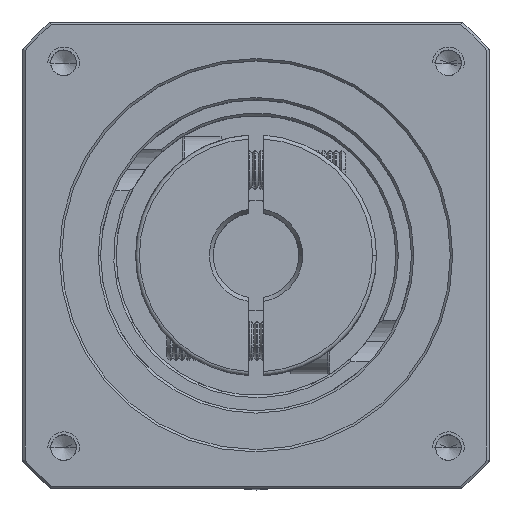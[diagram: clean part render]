
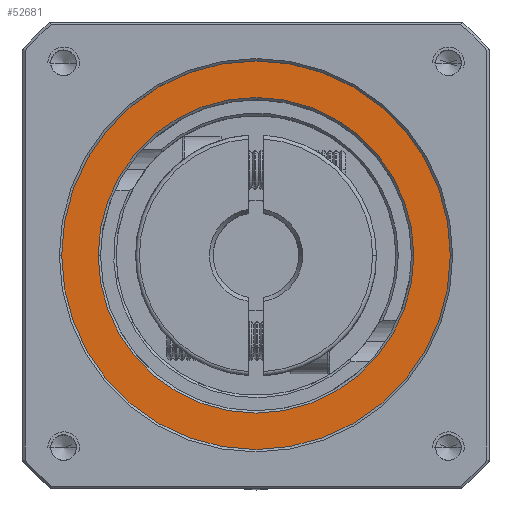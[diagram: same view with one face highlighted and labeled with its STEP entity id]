
A CAD part, top view. The second image highlights one B-rep face of the part: STEP entity #52681.
In plain terms, the highlighted planar face has unit normal (0, 0, 1).
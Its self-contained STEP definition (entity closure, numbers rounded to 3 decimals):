
#4067 = PLANE ( 'NONE',  #11713 ) ;
#6203 = DIRECTION ( 'NONE',  ( 1., 0., 0. ) ) ;
#6592 = CARTESIAN_POINT ( 'NONE',  ( -74.716, 10.431, 30.713 ) ) ;
#8507 = ORIENTED_EDGE ( 'NONE', *, *, #59440, .T. ) ;
#10522 = EDGE_CURVE ( 'NONE', #37752, #32580, #70852, .T. ) ;
#11713 = AXIS2_PLACEMENT_3D ( 'NONE', #12733, #70752, #21096 ) ;
#12733 = CARTESIAN_POINT ( 'NONE',  ( -74.716, 10.431, 30.713 ) ) ;
#14901 = DIRECTION ( 'NONE',  ( 1., 0., 0. ) ) ;
#16177 = DIRECTION ( 'NONE',  ( 0., 0., 1. ) ) ;
#18598 = CARTESIAN_POINT ( 'NONE',  ( -99.716, 10.431, 30.713 ) ) ;
#20814 = CARTESIAN_POINT ( 'NONE',  ( -49.716, 10.431, 30.713 ) ) ;
#21096 = DIRECTION ( 'NONE',  ( 1., 0., 0. ) ) ;
#22282 = ORIENTED_EDGE ( 'NONE', *, *, #41358, .T. ) ;
#24663 = ORIENTED_EDGE ( 'NONE', *, *, #10522, .T. ) ;
#26319 = VERTEX_POINT ( 'NONE', #18598 ) ;
#27782 = CARTESIAN_POINT ( 'NONE',  ( -54.416, 10.431, 30.713 ) ) ;
#30393 = DIRECTION ( 'NONE',  ( 0., 0., -1. ) ) ;
#31655 = CIRCLE ( 'NONE', #57802, 20.3 ) ;
#32580 = VERTEX_POINT ( 'NONE', #27782 ) ;
#35223 = CIRCLE ( 'NONE', #104980, 25. ) ;
#37752 = VERTEX_POINT ( 'NONE', #88644 ) ;
#41358 = EDGE_CURVE ( 'NONE', #57723, #26319, #35223, .T. ) ;
#42845 = FACE_BOUND ( 'NONE', #52471, .T. ) ;
#49598 = EDGE_LOOP ( 'NONE', ( #22282, #77660 ) ) ;
#50252 = EDGE_CURVE ( 'NONE', #26319, #57723, #101629, .T. ) ;
#52471 = EDGE_LOOP ( 'NONE', ( #8507, #24663 ) ) ;
#52681 = ADVANCED_FACE ( 'NONE', ( #42845, #86924 ), #4067, .T. ) ;
#55912 = DIRECTION ( 'NONE',  ( 0., 0., -1. ) ) ;
#57723 = VERTEX_POINT ( 'NONE', #20814 ) ;
#57802 = AXIS2_PLACEMENT_3D ( 'NONE', #80000, #30393, #88405 ) ;
#59287 = AXIS2_PLACEMENT_3D ( 'NONE', #6592, #64569, #14901 ) ;
#59440 = EDGE_CURVE ( 'NONE', #32580, #37752, #31655, .T. ) ;
#64013 = AXIS2_PLACEMENT_3D ( 'NONE', #105616, #55912, #6203 ) ;
#64569 = DIRECTION ( 'NONE',  ( 0., 0., 1. ) ) ;
#65878 = CARTESIAN_POINT ( 'NONE',  ( -74.716, 10.431, 30.713 ) ) ;
#70752 = DIRECTION ( 'NONE',  ( 0., 0., 1. ) ) ;
#70852 = CIRCLE ( 'NONE', #64013, 20.3 ) ;
#74244 = DIRECTION ( 'NONE',  ( 1., 0., 0. ) ) ;
#77660 = ORIENTED_EDGE ( 'NONE', *, *, #50252, .T. ) ;
#80000 = CARTESIAN_POINT ( 'NONE',  ( -74.716, 10.431, 30.713 ) ) ;
#86924 = FACE_OUTER_BOUND ( 'NONE', #49598, .T. ) ;
#88405 = DIRECTION ( 'NONE',  ( 1., 0., 0. ) ) ;
#88644 = CARTESIAN_POINT ( 'NONE',  ( -95.016, 10.431, 30.713 ) ) ;
#101629 = CIRCLE ( 'NONE', #59287, 25. ) ;
#104980 = AXIS2_PLACEMENT_3D ( 'NONE', #65878, #16177, #74244 ) ;
#105616 = CARTESIAN_POINT ( 'NONE',  ( -74.716, 10.431, 30.713 ) ) ;
